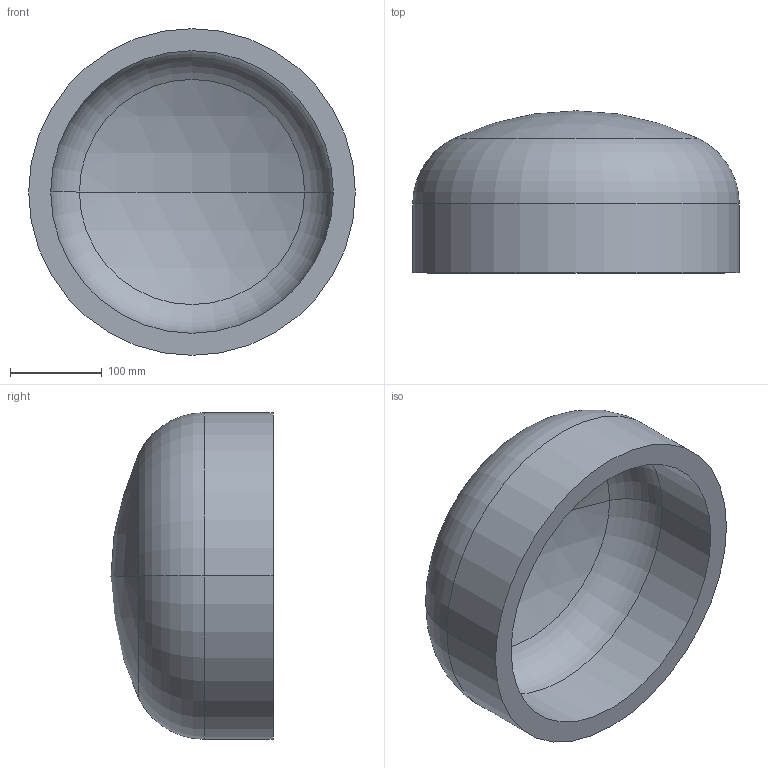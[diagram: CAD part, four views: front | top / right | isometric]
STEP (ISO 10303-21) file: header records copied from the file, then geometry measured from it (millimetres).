
FILE_DESCRIPTION (( 'STEP AP203' ), '1' );
FILE_NAME ('DIN 28013 Korbbogenform_-_Boden DIN 28013 - 355,6 x 75 - I - s=24.step', '2016-07-01T07:47:09', ( '' ), ( '' ), 'SwSTEP 2.0', 'SolidWorks 2013', '' );
FILE_SCHEMA (( 'CONFIG_CONTROL_DESIGN' ));
Length unit declared in the file: millimetre
Products named in the file (1): DIN 28013 Korbbogenform_-_Boden DIN 28013 - 355,6 x 75 - I - s=24
Bounding box: 355.6 x 176.41 x 355.6 mm (x, y, z)
Volume: 4908698.3 mm3; surface area: 435266.6 mm2
Topology: 1 solids, 1 shells, 13 faces, 24 edges, 14 vertices
Faces by surface type: torus 4, cylinder 4, sphere 4, plane 1
Entity records: 407 total; most frequent: DIRECTION 72, CARTESIAN_POINT 52, ORIENTED_EDGE 48, AXIS2_PLACEMENT_3D 34, EDGE_CURVE 24, CIRCLE 20, VERTEX_POINT 14, EDGE_LOOP 14
